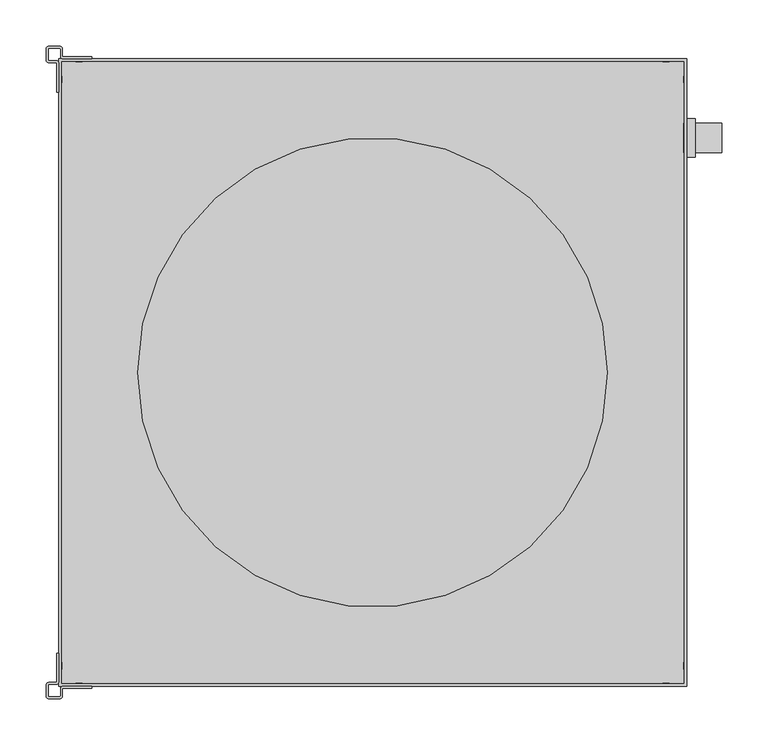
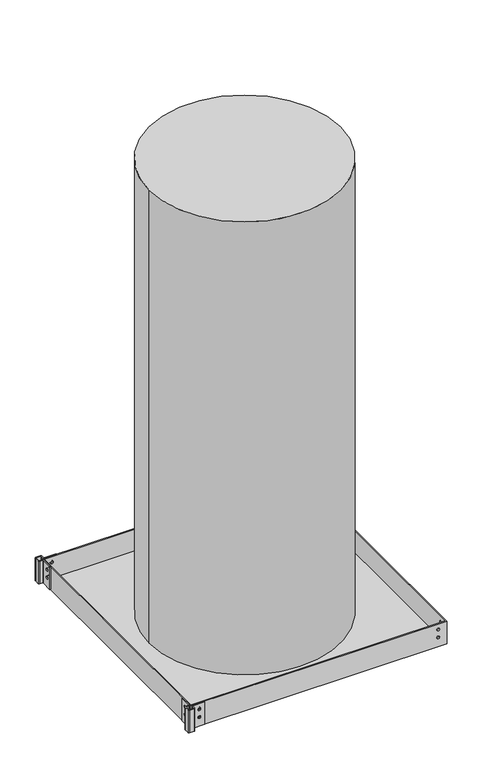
"""IFC4 building model written with IfcOpenShell, lengths in millimetres: proxy geometry."""

from ifc_helpers import new_model, si_unit, point, frame, frame_2d, origin, place, context, project, spatial, polyline, circle_curve, trimmed, segment, composite_curve, outline, extrude, source, transform, mapped, element, save
from ifc_brep_helpers import plane_surface, cylinder_surface, revolved_surface, advanced_brep


def generic_models_0aff265f(model_context):
    return source(origin(), model_context, "Body", "SolidModel", [
        advanced_brep(
        [(-341.7316, 1.6764, 63.5), (-342.4936, 0.9144, 63.5), (-350.393, 0.9144, 63.5), (-353.1616, -1.8542, 63.5), (-353.1616, -13.843, 63.5), (-350.393, -16.6116, 63.5), (-338.4042, -16.6116, 63.5), (-335.6356, -13.843, 63.5), (-335.6356, -5.9436, 63.5), (-334.8736, -5.1816, 63.5), (-303.7332, -5.1816, 63.5), (-303.7332, -3.175, 63.5), (-334.8736, -3.175, 63.5), (-337.6422, -5.9436, 63.5), (-337.6422, -13.843, 63.5), (-338.4042, -14.605, 63.5), (-350.393, -14.605, 63.5), (-351.155, -13.843, 63.5), (-351.155, -1.8542, 63.5), (-350.393, -1.0922, 63.5), (-342.4936, -1.0922, 63.5), (-339.725, 1.6764, 63.5), (-339.725, 32.8168, 63.5), (-341.7316, 32.8168, 63.5), (-341.7316, 1.6764, 0.0), (-341.7316, 32.8168, 0.0), (-339.725, 32.8168, 0.0), (-339.725, 1.6764, 0.0), (-342.4936, -1.0922, 0.0), (-350.393, -1.0922, 0.0), (-351.155, -1.8542, 0.0), (-351.155, -13.843, 0.0), (-350.393, -14.605, 0.0), (-338.4042, -14.605, 0.0), (-337.6422, -13.843, 0.0), (-337.6422, -5.9436, 0.0), (-334.8736, -3.175, 0.0), (-303.7332, -3.175, 0.0), (-303.7332, -5.1816, 0.0), (-334.8736, -5.1816, 0.0), (-335.6356, -5.9436, 0.0), (-335.6356, -13.843, 0.0), (-338.4042, -16.6116, 0.0), (-350.393, -16.6116, 0.0), (-353.1616, -13.843, 0.0), (-353.1616, -1.8542, 0.0), (-350.393, 0.9144, 0.0), (-342.4936, 0.9144, 0.0), (-313.9313, -5.1816, 47.625), (-321.0687, -5.1816, 47.625), (-313.9313, -5.1816, 25.4), (-321.0687, -5.1816, 25.4), (-321.0687, -3.175, 47.625), (-313.9313, -3.175, 47.625), (-321.0687, -3.175, 25.4), (-313.9313, -3.175, 25.4), (-339.725, 22.6187, 47.625), (-339.725, 15.4813, 47.625), (-339.725, 22.6187, 25.4), (-339.725, 15.4813, 25.4), (-341.7316, 15.4813, 47.625), (-341.7316, 22.6187, 47.625), (-341.7316, 15.4813, 25.4), (-341.7316, 22.6187, 25.4)],
        [
            (0, 1, circle_curve(frame((-342.4936, 1.6764, 63.5), z_axis=(0.0, 0.0, -1.0), x_axis=(1.0, 0.0, 0.0)), 0.762)),
            (1, 2),
            (2, 3, circle_curve(frame((-350.393, -1.8542, 63.5), z_axis=(0.0, 0.0, 1.0), x_axis=(1.0, 0.0, 0.0)), 2.7686)),
            (3, 4),
            (4, 5, circle_curve(frame((-350.393, -13.843, 63.5), z_axis=(0.0, 0.0, 1.0), x_axis=(1.0, 0.0, 0.0)), 2.7686)),
            (5, 6),
            (6, 7, circle_curve(frame((-338.4042, -13.843, 63.5), z_axis=(0.0, 0.0, 1.0), x_axis=(1.0, 0.0, 0.0)), 2.7686)),
            (7, 8),
            (8, 9, circle_curve(frame((-334.8736, -5.9436, 63.5), z_axis=(0.0, 0.0, -1.0), x_axis=(1.0, 0.0, 0.0)), 0.762)),
            (9, 10),
            (10, 11),
            (11, 12),
            (12, 13, circle_curve(frame((-334.8736, -5.9436, 63.5), z_axis=(0.0, 0.0, 1.0), x_axis=(1.0, 0.0, 0.0)), 2.7686)),
            (13, 14),
            (14, 15, circle_curve(frame((-338.4042, -13.843, 63.5), z_axis=(0.0, 0.0, -1.0), x_axis=(1.0, 0.0, 0.0)), 0.762)),
            (15, 16),
            (16, 17, circle_curve(frame((-350.393, -13.843, 63.5), z_axis=(0.0, 0.0, -1.0), x_axis=(1.0, 0.0, 0.0)), 0.762)),
            (17, 18),
            (18, 19, circle_curve(frame((-350.393, -1.8542, 63.5), z_axis=(0.0, 0.0, -1.0), x_axis=(1.0, 0.0, 0.0)), 0.762)),
            (19, 20),
            (20, 21, circle_curve(frame((-342.4936, 1.6764, 63.5), z_axis=(0.0, 0.0, 1.0), x_axis=(1.0, 0.0, 0.0)), 2.7686)),
            (21, 22),
            (22, 23),
            (23, 0),
            (24, 25),
            (25, 26),
            (26, 27),
            (27, 28, circle_curve(frame((-342.4936, 1.6764, 0.0), z_axis=(0.0, 0.0, -1.0), x_axis=(1.0, 0.0, 0.0)), 2.7686)),
            (28, 29),
            (29, 30, circle_curve(frame((-350.393, -1.8542, 0.0), z_axis=(0.0, 0.0, 1.0), x_axis=(1.0, 0.0, 0.0)), 0.762)),
            (30, 31),
            (31, 32, circle_curve(frame((-350.393, -13.843, 0.0), z_axis=(0.0, 0.0, 1.0), x_axis=(1.0, 0.0, 0.0)), 0.762)),
            (32, 33),
            (33, 34, circle_curve(frame((-338.4042, -13.843, 0.0), z_axis=(0.0, 0.0, 1.0), x_axis=(1.0, 0.0, 0.0)), 0.762)),
            (34, 35),
            (35, 36, circle_curve(frame((-334.8736, -5.9436, 0.0), z_axis=(0.0, 0.0, -1.0), x_axis=(1.0, 0.0, 0.0)), 2.7686)),
            (36, 37),
            (37, 38),
            (38, 39),
            (39, 40, circle_curve(frame((-334.8736, -5.9436, 0.0), z_axis=(0.0, 0.0, 1.0), x_axis=(1.0, 0.0, 0.0)), 0.762)),
            (40, 41),
            (41, 42, circle_curve(frame((-338.4042, -13.843, 0.0), z_axis=(0.0, 0.0, -1.0), x_axis=(1.0, 0.0, 0.0)), 2.7686)),
            (42, 43),
            (43, 44, circle_curve(frame((-350.393, -13.843, 0.0), z_axis=(0.0, 0.0, -1.0), x_axis=(1.0, 0.0, 0.0)), 2.7686)),
            (44, 45),
            (45, 46, circle_curve(frame((-350.393, -1.8542, 0.0), z_axis=(0.0, 0.0, -1.0), x_axis=(1.0, 0.0, 0.0)), 2.7686)),
            (46, 47),
            (47, 24, circle_curve(frame((-342.4936, 1.6764, 0.0), z_axis=(0.0, 0.0, 1.0), x_axis=(1.0, 0.0, 0.0)), 0.762)),
            (0, 24),
            (47, 1),
            (46, 2),
            (45, 3),
            (44, 4),
            (43, 5),
            (42, 6),
            (41, 7),
            (40, 8),
            (39, 9),
            (38, 10),
            (48, 49, circle_curve(frame((-317.5, -5.1816, 47.625), z_axis=(0.0, 1.0, 0.0), x_axis=(-1.0, 0.0, 0.0)), 3.5687)),
            (49, 48, circle_curve(frame((-317.5, -5.1816, 47.625), z_axis=(0.0, 1.0, 0.0), x_axis=(-1.0, 0.0, 0.0)), 3.5687)),
            (50, 51, circle_curve(frame((-317.5, -5.1816, 25.4), z_axis=(0.0, 1.0, 0.0), x_axis=(-1.0, 0.0, 0.0)), 3.5687)),
            (51, 50, circle_curve(frame((-317.5, -5.1816, 25.4), z_axis=(0.0, 1.0, 0.0), x_axis=(-1.0, 0.0, 0.0)), 3.5687)),
            (37, 11),
            (36, 12),
            (52, 53, circle_curve(frame((-317.5, -3.175, 47.625), z_axis=(0.0, -1.0, 0.0), x_axis=(-1.0, 0.0, 0.0)), 3.5687)),
            (53, 52, circle_curve(frame((-317.5, -3.175, 47.625), z_axis=(0.0, -1.0, 0.0), x_axis=(-1.0, 0.0, 0.0)), 3.5687)),
            (54, 55, circle_curve(frame((-317.5, -3.175, 25.4), z_axis=(0.0, -1.0, 0.0), x_axis=(-1.0, 0.0, 0.0)), 3.5687)),
            (55, 54, circle_curve(frame((-317.5, -3.175, 25.4), z_axis=(0.0, -1.0, 0.0), x_axis=(-1.0, 0.0, 0.0)), 3.5687)),
            (35, 13),
            (34, 14),
            (33, 15),
            (32, 16),
            (31, 17),
            (30, 18),
            (29, 19),
            (28, 20),
            (27, 21),
            (26, 22),
            (56, 57, circle_curve(frame((-339.725, 19.05, 47.625), z_axis=(-1.0, 0.0, 0.0), x_axis=(0.0, -1.0, 0.0)), 3.5687)),
            (57, 56, circle_curve(frame((-339.725, 19.05, 47.625), z_axis=(-1.0, 0.0, 0.0), x_axis=(0.0, -1.0, 0.0)), 3.5687)),
            (58, 59, circle_curve(frame((-339.725, 19.05, 25.4), z_axis=(-1.0, 0.0, 0.0), x_axis=(0.0, -1.0, 0.0)), 3.5687)),
            (59, 58, circle_curve(frame((-339.725, 19.05, 25.4), z_axis=(-1.0, 0.0, 0.0), x_axis=(0.0, -1.0, 0.0)), 3.5687)),
            (25, 23),
            (60, 61, circle_curve(frame((-341.7316, 19.05, 47.625), z_axis=(1.0, 0.0, 0.0), x_axis=(0.0, -1.0, 0.0)), 3.5687)),
            (61, 60, circle_curve(frame((-341.7316, 19.05, 47.625), z_axis=(1.0, 0.0, 0.0), x_axis=(0.0, -1.0, 0.0)), 3.5687)),
            (62, 63, circle_curve(frame((-341.7316, 19.05, 25.4), z_axis=(1.0, 0.0, 0.0), x_axis=(0.0, -1.0, 0.0)), 3.5687)),
            (63, 62, circle_curve(frame((-341.7316, 19.05, 25.4), z_axis=(1.0, 0.0, 0.0), x_axis=(0.0, -1.0, 0.0)), 3.5687)),
            (56, 61),
            (60, 57),
            (58, 63),
            (62, 59),
            (48, 53),
            (52, 49),
            (50, 55),
            (54, 51),
        ],
        [
            plane_surface(frame((-341.7316, 1.6764, 63.5), z_axis=(0.0, 0.0, 1.0), x_axis=(0.0, -1.0, 0.0))),
            plane_surface(frame((-341.7316, 1.6764, 0.0), z_axis=(0.0, 0.0, -1.0), x_axis=(0.0, 1.0, 0.0))),
            revolved_surface(polyline([(-341.7316, 1.6764, 0.0), (-341.7316, 1.6764, 63.5)]), (-342.4936, 1.6764, 0.0), (0.0, 0.0, -1.0)),
            plane_surface(frame((-342.4936, 0.9144, 63.5), z_axis=(0.0, 1.0, 0.0), x_axis=(0.0, 0.0, -1.0))),
            cylinder_surface(frame((-350.393, -1.8542, 0.0), z_axis=(0.0, 0.0, 1.0), x_axis=(1.0, 0.0, 0.0)), 2.7686),
            plane_surface(frame((-353.1616, -1.8542, 63.5), z_axis=(-1.0, 0.0, 0.0), x_axis=(0.0, 0.0, -1.0))),
            cylinder_surface(frame((-350.393, -13.843, 0.0), z_axis=(0.0, 0.0, 1.0), x_axis=(1.0, 0.0, 0.0)), 2.7686),
            plane_surface(frame((-350.393, -16.6116, 63.5), z_axis=(0.0, -1.0, 0.0), x_axis=(0.0, 0.0, -1.0))),
            cylinder_surface(frame((-338.4042, -13.843, 0.0), z_axis=(0.0, 0.0, 1.0), x_axis=(1.0, 0.0, 0.0)), 2.7686),
            plane_surface(frame((-335.6356, -13.843, 63.5), z_axis=(1.0, 0.0, 0.0), x_axis=(0.0, 0.0, -1.0))),
            revolved_surface(polyline([(-334.1116, -5.9436, 0.0), (-334.1116, -5.9436, 63.5)]), (-334.8736, -5.9436, 0.0), (0.0, 0.0, -1.0)),
            plane_surface(frame((-334.8736, -5.1816, 63.5), z_axis=(0.0, -1.0, 0.0), x_axis=(0.0, 0.0, -1.0))),
            plane_surface(frame((-303.7332, -5.1816, 63.5), z_axis=(1.0, 0.0, 0.0), x_axis=(0.0, 0.0, -1.0))),
            plane_surface(frame((-303.7332, -3.175, 63.5), z_axis=(0.0, 1.0, 0.0), x_axis=(0.0, 0.0, -1.0))),
            cylinder_surface(frame((-334.8736, -5.9436, 0.0), z_axis=(0.0, 0.0, 1.0), x_axis=(1.0, 0.0, 0.0)), 2.7686),
            plane_surface(frame((-337.6422, -5.9436, 63.5), z_axis=(-1.0, 0.0, 0.0), x_axis=(0.0, 0.0, -1.0))),
            revolved_surface(polyline([(-337.6422, -13.843, 0.0), (-337.6422, -13.843, 63.5)]), (-338.4042, -13.843, 0.0), (0.0, 0.0, -1.0)),
            plane_surface(frame((-338.4042, -14.605, 63.5), z_axis=(0.0, 1.0, 0.0), x_axis=(0.0, 0.0, -1.0))),
            revolved_surface(polyline([(-349.631, -13.843, 0.0), (-349.631, -13.843, 63.5)]), (-350.393, -13.843, 0.0), (0.0, 0.0, -1.0)),
            plane_surface(frame((-351.155, -13.843, 63.5), z_axis=(1.0, 0.0, 0.0), x_axis=(0.0, 0.0, -1.0))),
            revolved_surface(polyline([(-349.631, -1.8542, 0.0), (-349.631, -1.8542, 63.5)]), (-350.393, -1.8542, 0.0), (0.0, 0.0, -1.0)),
            plane_surface(frame((-350.393, -1.0922, 63.5), z_axis=(0.0, -1.0, 0.0), x_axis=(0.0, 0.0, -1.0))),
            cylinder_surface(frame((-342.4936, 1.6764, 0.0), z_axis=(0.0, 0.0, 1.0), x_axis=(1.0, 0.0, 0.0)), 2.7686),
            plane_surface(frame((-339.725, 1.6764, 63.5), z_axis=(1.0, 0.0, 0.0), x_axis=(0.0, 0.0, -1.0))),
            plane_surface(frame((-339.725, 32.8168, 63.5), z_axis=(0.0, 1.0, 0.0), x_axis=(0.0, 0.0, -1.0))),
            plane_surface(frame((-341.7316, 32.8168, 63.5), z_axis=(-1.0, 0.0, 0.0), x_axis=(0.0, 0.0, -1.0))),
            revolved_surface(polyline([(-341.7316, 15.481300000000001, 47.625), (-339.725, 15.481300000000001, 47.625)]), (-336.55, 19.05, 47.625), (-1.0, 0.0, 0.0)),
            revolved_surface(polyline([(-341.7316, 15.481300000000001, 25.4), (-339.725, 15.481300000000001, 25.4)]), (-344.3986, 19.05, 25.4), (-1.0, 0.0, 0.0)),
            revolved_surface(polyline([(-321.0687, -3.175, 47.625), (-321.0687, -5.1816, 47.625)]), (-317.5, -7.8486, 47.625), (0.0, 1.0, 0.0)),
            revolved_surface(polyline([(-321.0687, -3.175, 25.4), (-321.0687, -5.1816, 25.4)]), (-317.5, -7.8486, 25.4), (0.0, 1.0, 0.0)),
        ],
        [
            (0, [[1, 2, 3, 4, 5, 6, 7, 8, 9, 10, 11, 12, 13, 14, 15, 16, 17, 18, 19, 20, 21, 22, 23, 24]]),
            (1, [[25, 26, 27, 28, 29, 30, 31, 32, 33, 34, 35, 36, 37, 38, 39, 40, 41, 42, 43, 44, 45, 46, 47, 48]]),
            (2, [[-1, 49, -48, 50]]),
            (3, [[-2, -50, -47, 51]]),
            (4, [[-3, -51, -46, 52]]),
            (5, [[-4, -52, -45, 53]]),
            (6, [[-5, -53, -44, 54]]),
            (7, [[-6, -54, -43, 55]]),
            (8, [[-7, -55, -42, 56]]),
            (9, [[-8, -56, -41, 57]]),
            (10, [[-9, -57, -40, 58]]),
            (11, [[-10, -58, -39, 59], [60, 61], [62, 63]]),
            (12, [[-11, -59, -38, 64]]),
            (13, [[-12, -64, -37, 65], [66, 67], [68, 69]]),
            (14, [[-13, -65, -36, 70]]),
            (15, [[-14, -70, -35, 71]]),
            (16, [[-15, -71, -34, 72]]),
            (17, [[-16, -72, -33, 73]]),
            (18, [[-17, -73, -32, 74]]),
            (19, [[-18, -74, -31, 75]]),
            (20, [[-19, -75, -30, 76]]),
            (21, [[-20, -76, -29, 77]]),
            (22, [[-21, -77, -28, 78]]),
            (23, [[-22, -78, -27, 79], [80, 81], [82, 83]]),
            (24, [[-23, -79, -26, 84]]),
            (25, [[-24, -84, -25, -49], [85, 86], [87, 88]]),
            (26, [[89, -85, 90, -80]]),
            (26, [[-89, -81, -90, -86]]),
            (27, [[91, -87, 92, -82]]),
            (27, [[-91, -83, -92, -88]]),
            (28, [[93, -66, 94, -60]]),
            (28, [[-93, -61, -94, -67]]),
            (29, [[95, -68, 96, -62]]),
            (29, [[-95, -63, -96, -69]]),
        ],
    ),
        advanced_brep(
        [(-303.7332, 678.2816, 63.5), (-334.8736, 678.2816, 63.5), (-335.6356, 679.0436, 63.5), (-335.6356, 686.943, 63.5), (-338.4042, 689.7116, 63.5), (-350.393, 689.7116, 63.5), (-353.1616, 686.943, 63.5), (-353.1616, 674.9542, 63.5), (-350.393, 672.1856, 63.5), (-342.4936, 672.1856, 63.5), (-341.7316, 671.4236, 63.5), (-341.7316, 640.2832, 63.5), (-339.725, 640.2832, 63.5), (-339.725, 671.4236, 63.5), (-342.4936, 674.1922, 63.5), (-350.393, 674.1922, 63.5), (-351.155, 674.9542, 63.5), (-351.155, 686.943, 63.5), (-350.393, 687.705, 63.5), (-338.4042, 687.705, 63.5), (-337.6422, 686.943, 63.5), (-337.6422, 679.0436, 63.5), (-334.8736, 676.275, 63.5), (-303.7332, 676.275, 63.5), (-303.7332, 678.2816, 0.0), (-303.7332, 676.275, 0.0), (-334.8736, 676.275, 0.0), (-337.6422, 679.0436, 0.0), (-337.6422, 686.943, 0.0), (-338.4042, 687.705, 0.0), (-350.393, 687.705, 0.0), (-351.155, 686.943, 0.0), (-351.155, 674.9542, 0.0), (-350.393, 674.1922, 0.0), (-342.4936, 674.1922, 0.0), (-339.725, 671.4236, 0.0), (-339.725, 640.2832, 0.0), (-341.7316, 640.2832, 0.0), (-341.7316, 671.4236, 0.0), (-342.4936, 672.1856, 0.0), (-350.393, 672.1856, 0.0), (-353.1616, 674.9542, 0.0), (-353.1616, 686.943, 0.0), (-350.393, 689.7116, 0.0), (-338.4042, 689.7116, 0.0), (-335.6356, 686.943, 0.0), (-335.6356, 679.0436, 0.0), (-334.8736, 678.2816, 0.0), (-321.0687, 678.2816, 47.625), (-313.9313, 678.2816, 47.625), (-321.0687, 678.2816, 25.4), (-313.9313, 678.2816, 25.4), (-341.7316, 650.4813, 47.625), (-341.7316, 657.6187, 47.625), (-341.7316, 650.4813, 25.4), (-341.7316, 657.6187, 25.4), (-339.725, 657.6187, 47.625), (-339.725, 650.4813, 47.625), (-339.725, 657.6187, 25.4), (-339.725, 650.4813, 25.4), (-313.9313, 676.275, 47.625), (-321.0687, 676.275, 47.625), (-313.9313, 676.275, 25.4), (-321.0687, 676.275, 25.4)],
        [
            (0, 1),
            (1, 2, circle_curve(frame((-334.8736, 679.0436, 63.5), z_axis=(0.0, 0.0, -1.0), x_axis=(1.0, 0.0, 0.0)), 0.762)),
            (2, 3),
            (3, 4, circle_curve(frame((-338.4042, 686.943, 63.5), z_axis=(0.0, 0.0, 1.0), x_axis=(1.0, 0.0, 0.0)), 2.7686)),
            (4, 5),
            (5, 6, circle_curve(frame((-350.393, 686.943, 63.5), z_axis=(0.0, 0.0, 1.0), x_axis=(1.0, 0.0, 0.0)), 2.7686)),
            (6, 7),
            (7, 8, circle_curve(frame((-350.393, 674.9542, 63.5), z_axis=(0.0, 0.0, 1.0), x_axis=(1.0, 0.0, 0.0)), 2.7686)),
            (8, 9),
            (9, 10, circle_curve(frame((-342.4936, 671.4236, 63.5), z_axis=(0.0, 0.0, -1.0), x_axis=(1.0, 0.0, 0.0)), 0.762)),
            (10, 11),
            (11, 12),
            (12, 13),
            (13, 14, circle_curve(frame((-342.4936, 671.4236, 63.5), z_axis=(0.0, 0.0, 1.0), x_axis=(1.0, 0.0, 0.0)), 2.7686)),
            (14, 15),
            (15, 16, circle_curve(frame((-350.393, 674.9542, 63.5), z_axis=(0.0, 0.0, -1.0), x_axis=(1.0, 0.0, 0.0)), 0.762)),
            (16, 17),
            (17, 18, circle_curve(frame((-350.393, 686.943, 63.5), z_axis=(0.0, 0.0, -1.0), x_axis=(1.0, 0.0, 0.0)), 0.762)),
            (18, 19),
            (19, 20, circle_curve(frame((-338.4042, 686.943, 63.5), z_axis=(0.0, 0.0, -1.0), x_axis=(1.0, 0.0, 0.0)), 0.762)),
            (20, 21),
            (21, 22, circle_curve(frame((-334.8736, 679.0436, 63.5), z_axis=(0.0, 0.0, 1.0), x_axis=(1.0, 0.0, 0.0)), 2.7686)),
            (22, 23),
            (23, 0),
            (24, 25),
            (25, 26),
            (26, 27, circle_curve(frame((-334.8736, 679.0436, 0.0), z_axis=(0.0, 0.0, -1.0), x_axis=(1.0, 0.0, 0.0)), 2.7686)),
            (27, 28),
            (28, 29, circle_curve(frame((-338.4042, 686.943, 0.0), z_axis=(0.0, 0.0, 1.0), x_axis=(1.0, 0.0, 0.0)), 0.762)),
            (29, 30),
            (30, 31, circle_curve(frame((-350.393, 686.943, 0.0), z_axis=(0.0, 0.0, 1.0), x_axis=(1.0, 0.0, 0.0)), 0.762)),
            (31, 32),
            (32, 33, circle_curve(frame((-350.393, 674.9542, 0.0), z_axis=(0.0, 0.0, 1.0), x_axis=(1.0, 0.0, 0.0)), 0.762)),
            (33, 34),
            (34, 35, circle_curve(frame((-342.4936, 671.4236, 0.0), z_axis=(0.0, 0.0, -1.0), x_axis=(1.0, 0.0, 0.0)), 2.7686)),
            (35, 36),
            (36, 37),
            (37, 38),
            (38, 39, circle_curve(frame((-342.4936, 671.4236, 0.0), z_axis=(0.0, 0.0, 1.0), x_axis=(1.0, 0.0, 0.0)), 0.762)),
            (39, 40),
            (40, 41, circle_curve(frame((-350.393, 674.9542, 0.0), z_axis=(0.0, 0.0, -1.0), x_axis=(1.0, 0.0, 0.0)), 2.7686)),
            (41, 42),
            (42, 43, circle_curve(frame((-350.393, 686.943, 0.0), z_axis=(0.0, 0.0, -1.0), x_axis=(1.0, 0.0, 0.0)), 2.7686)),
            (43, 44),
            (44, 45, circle_curve(frame((-338.4042, 686.943, 0.0), z_axis=(0.0, 0.0, -1.0), x_axis=(1.0, 0.0, 0.0)), 2.7686)),
            (45, 46),
            (46, 47, circle_curve(frame((-334.8736, 679.0436, 0.0), z_axis=(0.0, 0.0, 1.0), x_axis=(1.0, 0.0, 0.0)), 0.762)),
            (47, 24),
            (0, 24),
            (47, 1),
            (48, 49, circle_curve(frame((-317.5, 678.2816, 47.625), z_axis=(0.0, -1.0, 0.0), x_axis=(-1.0, 0.0, 0.0)), 3.5687)),
            (49, 48, circle_curve(frame((-317.5, 678.2816, 47.625), z_axis=(0.0, -1.0, 0.0), x_axis=(-1.0, 0.0, 0.0)), 3.5687)),
            (50, 51, circle_curve(frame((-317.5, 678.2816, 25.4), z_axis=(0.0, -1.0, 0.0), x_axis=(-1.0, 0.0, 0.0)), 3.5687)),
            (51, 50, circle_curve(frame((-317.5, 678.2816, 25.4), z_axis=(0.0, -1.0, 0.0), x_axis=(-1.0, 0.0, 0.0)), 3.5687)),
            (46, 2),
            (45, 3),
            (44, 4),
            (43, 5),
            (42, 6),
            (41, 7),
            (40, 8),
            (39, 9),
            (38, 10),
            (37, 11),
            (52, 53, circle_curve(frame((-341.7316, 654.05, 47.625), z_axis=(1.0, 0.0, 0.0), x_axis=(0.0, -1.0, 0.0)), 3.5687)),
            (53, 52, circle_curve(frame((-341.7316, 654.05, 47.625), z_axis=(1.0, 0.0, 0.0), x_axis=(0.0, -1.0, 0.0)), 3.5687)),
            (54, 55, circle_curve(frame((-341.7316, 654.05, 25.4), z_axis=(1.0, 0.0, 0.0), x_axis=(0.0, -1.0, 0.0)), 3.5687)),
            (55, 54, circle_curve(frame((-341.7316, 654.05, 25.4), z_axis=(1.0, 0.0, 0.0), x_axis=(0.0, -1.0, 0.0)), 3.5687)),
            (36, 12),
            (35, 13),
            (56, 57, circle_curve(frame((-339.725, 654.05, 47.625), z_axis=(-1.0, 0.0, 0.0), x_axis=(0.0, -1.0, 0.0)), 3.5687)),
            (57, 56, circle_curve(frame((-339.725, 654.05, 47.625), z_axis=(-1.0, 0.0, 0.0), x_axis=(0.0, -1.0, 0.0)), 3.5687)),
            (58, 59, circle_curve(frame((-339.725, 654.05, 25.4), z_axis=(-1.0, 0.0, 0.0), x_axis=(0.0, -1.0, 0.0)), 3.5687)),
            (59, 58, circle_curve(frame((-339.725, 654.05, 25.4), z_axis=(-1.0, 0.0, 0.0), x_axis=(0.0, -1.0, 0.0)), 3.5687)),
            (34, 14),
            (33, 15),
            (32, 16),
            (31, 17),
            (30, 18),
            (29, 19),
            (28, 20),
            (27, 21),
            (26, 22),
            (25, 23),
            (60, 61, circle_curve(frame((-317.5, 676.275, 47.625), z_axis=(0.0, 1.0, 0.0), x_axis=(-1.0, 0.0, 0.0)), 3.5687)),
            (61, 60, circle_curve(frame((-317.5, 676.275, 47.625), z_axis=(0.0, 1.0, 0.0), x_axis=(-1.0, 0.0, 0.0)), 3.5687)),
            (62, 63, circle_curve(frame((-317.5, 676.275, 25.4), z_axis=(0.0, 1.0, 0.0), x_axis=(-1.0, 0.0, 0.0)), 3.5687)),
            (63, 62, circle_curve(frame((-317.5, 676.275, 25.4), z_axis=(0.0, 1.0, 0.0), x_axis=(-1.0, 0.0, 0.0)), 3.5687)),
            (56, 53),
            (52, 57),
            (58, 55),
            (54, 59),
            (60, 49),
            (48, 61),
            (62, 51),
            (50, 63),
        ],
        [
            plane_surface(frame((-334.8736, 678.2816, 63.5), z_axis=(0.0, 0.0, 1.0), x_axis=(-1.0, 0.0, 0.0))),
            plane_surface(frame((-334.8736, 678.2816, 0.0), z_axis=(0.0, 0.0, -1.0), x_axis=(1.0, 0.0, 0.0))),
            plane_surface(frame((-303.7332, 678.2816, 63.5), z_axis=(0.0, 1.0, 0.0), x_axis=(0.0, 0.0, -1.0))),
            revolved_surface(polyline([(-334.1116, 679.0436, 0.0), (-334.1116, 679.0436, 63.5)]), (-334.8736, 679.0436, 0.0), (0.0, 0.0, -1.0)),
            plane_surface(frame((-335.6356, 679.0436, 63.5), z_axis=(1.0, 0.0, 0.0), x_axis=(0.0, 0.0, -1.0))),
            cylinder_surface(frame((-338.4042, 686.943, 0.0), z_axis=(0.0, 0.0, 1.0), x_axis=(1.0, 0.0, 0.0)), 2.7686),
            plane_surface(frame((-338.4042, 689.7116, 63.5), z_axis=(0.0, 1.0, 0.0), x_axis=(0.0, 0.0, -1.0))),
            cylinder_surface(frame((-350.393, 686.943, 0.0), z_axis=(0.0, 0.0, 1.0), x_axis=(1.0, 0.0, 0.0)), 2.7686),
            plane_surface(frame((-353.1616, 686.943, 63.5), z_axis=(-1.0, 0.0, 0.0), x_axis=(0.0, 0.0, -1.0))),
            cylinder_surface(frame((-350.393, 674.9542, 0.0), z_axis=(0.0, 0.0, 1.0), x_axis=(1.0, 0.0, 0.0)), 2.7686),
            plane_surface(frame((-350.393, 672.1856, 63.5), z_axis=(0.0, -1.0, 0.0), x_axis=(0.0, 0.0, -1.0))),
            revolved_surface(polyline([(-341.7316, 671.4236, 0.0), (-341.7316, 671.4236, 63.5)]), (-342.4936, 671.4236, 0.0), (0.0, 0.0, -1.0)),
            plane_surface(frame((-341.7316, 671.4236, 63.5), z_axis=(-1.0, 0.0, 0.0), x_axis=(0.0, 0.0, -1.0))),
            plane_surface(frame((-341.7316, 640.2832, 63.5), z_axis=(0.0, -1.0, 0.0), x_axis=(0.0, 0.0, -1.0))),
            plane_surface(frame((-339.725, 640.2832, 63.5), z_axis=(1.0, 0.0, 0.0), x_axis=(0.0, 0.0, -1.0))),
            cylinder_surface(frame((-342.4936, 671.4236, 0.0), z_axis=(0.0, 0.0, 1.0), x_axis=(1.0, 0.0, 0.0)), 2.7686),
            plane_surface(frame((-342.4936, 674.1922, 63.5), z_axis=(0.0, 1.0, 0.0), x_axis=(0.0, 0.0, -1.0))),
            revolved_surface(polyline([(-349.631, 674.9542, 0.0), (-349.631, 674.9542, 63.5)]), (-350.393, 674.9542, 0.0), (0.0, 0.0, -1.0)),
            plane_surface(frame((-351.155, 674.9542, 63.5), z_axis=(1.0, 0.0, 0.0), x_axis=(0.0, 0.0, -1.0))),
            revolved_surface(polyline([(-349.631, 686.943, 0.0), (-349.631, 686.943, 63.5)]), (-350.393, 686.943, 0.0), (0.0, 0.0, -1.0)),
            plane_surface(frame((-350.393, 687.705, 63.5), z_axis=(0.0, -1.0, 0.0), x_axis=(0.0, 0.0, -1.0))),
            revolved_surface(polyline([(-337.6422, 686.943, 0.0), (-337.6422, 686.943, 63.5)]), (-338.4042, 686.943, 0.0), (0.0, 0.0, -1.0)),
            plane_surface(frame((-337.6422, 686.943, 63.5), z_axis=(-1.0, 0.0, 0.0), x_axis=(0.0, 0.0, -1.0))),
            cylinder_surface(frame((-334.8736, 679.0436, 0.0), z_axis=(0.0, 0.0, 1.0), x_axis=(1.0, 0.0, 0.0)), 2.7686),
            plane_surface(frame((-334.8736, 676.275, 63.5), z_axis=(0.0, -1.0, 0.0), x_axis=(0.0, 0.0, -1.0))),
            plane_surface(frame((-303.7332, 676.275, 63.5), z_axis=(1.0, 0.0, 0.0), x_axis=(0.0, 0.0, -1.0))),
            revolved_surface(polyline([(-341.7316, 650.4812999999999, 47.625), (-339.725, 650.4812999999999, 47.625)]), (-336.55, 654.05, 47.625), (-1.0, 0.0, 0.0)),
            revolved_surface(polyline([(-341.7316, 650.4812999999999, 25.4), (-339.725, 650.4812999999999, 25.4)]), (-344.3986, 654.05, 25.4), (-1.0, 0.0, 0.0)),
            revolved_surface(polyline([(-321.0687, 678.2816, 47.625), (-321.0687, 676.275, 47.625)]), (-317.5, 673.1, 47.625), (0.0, 1.0, 0.0)),
            revolved_surface(polyline([(-321.0687, 678.2816, 25.4), (-321.0687, 676.275, 25.4)]), (-317.5, 680.9486, 25.4), (0.0, 1.0, 0.0)),
        ],
        [
            (0, [[1, 2, 3, 4, 5, 6, 7, 8, 9, 10, 11, 12, 13, 14, 15, 16, 17, 18, 19, 20, 21, 22, 23, 24]]),
            (1, [[25, 26, 27, 28, 29, 30, 31, 32, 33, 34, 35, 36, 37, 38, 39, 40, 41, 42, 43, 44, 45, 46, 47, 48]]),
            (2, [[-1, 49, -48, 50], [51, 52], [53, 54]]),
            (3, [[-2, -50, -47, 55]]),
            (4, [[-3, -55, -46, 56]]),
            (5, [[-4, -56, -45, 57]]),
            (6, [[-5, -57, -44, 58]]),
            (7, [[-6, -58, -43, 59]]),
            (8, [[-7, -59, -42, 60]]),
            (9, [[-8, -60, -41, 61]]),
            (10, [[-9, -61, -40, 62]]),
            (11, [[-10, -62, -39, 63]]),
            (12, [[-11, -63, -38, 64], [65, 66], [67, 68]]),
            (13, [[-12, -64, -37, 69]]),
            (14, [[-13, -69, -36, 70], [71, 72], [73, 74]]),
            (15, [[-14, -70, -35, 75]]),
            (16, [[-15, -75, -34, 76]]),
            (17, [[-16, -76, -33, 77]]),
            (18, [[-17, -77, -32, 78]]),
            (19, [[-18, -78, -31, 79]]),
            (20, [[-19, -79, -30, 80]]),
            (21, [[-20, -80, -29, 81]]),
            (22, [[-21, -81, -28, 82]]),
            (23, [[-22, -82, -27, 83]]),
            (24, [[-23, -83, -26, 84], [85, 86], [87, 88]]),
            (25, [[-24, -84, -25, -49]]),
            (26, [[89, -65, 90, -71]]),
            (26, [[-89, -72, -90, -66]]),
            (27, [[91, -67, 92, -73]]),
            (27, [[-91, -74, -92, -68]]),
            (28, [[93, -51, 94, -85]]),
            (28, [[-93, -86, -94, -52]]),
            (29, [[95, -53, 96, -87]]),
            (29, [[-95, -88, -96, -54]]),
        ],
    ),
        extrude(outline(composite_curve([segment(trimmed(circle_curve(frame_2d((0.0, 336.55)), 254.0), [point((-254.0, 336.55))], [point((254.0, 336.55))], False, "CARTESIAN"), True, "CONTINUOUS"), segment(trimmed(circle_curve(frame_2d((0.0, 336.55)), 254.0), [point((254.0, 336.55))], [point((-254.0, 336.55))], False, "CARTESIAN"), True, "CONTINUOUS")], self_intersect=False)), frame((0.0, 0.0, 3.175), z_axis=(0.0, 0.0, 1.0), x_axis=(1.0, 0.0, 0.0)), (0.0, 0.0, 1.0), 1270.0),
        extrude(outline(composite_curve([segment(trimmed(circle_curve(frame_2d((590.55, 25.9953125)), 20.6375), [point((569.9125, 25.9953125))], [point((611.1875, 25.9953125))], False, "CARTESIAN"), True, "CONTINUOUS"), segment(trimmed(circle_curve(frame_2d((590.55, 25.9953125)), 20.6375), [point((611.1875, 25.9953125))], [point((569.9125, 25.9953125))], False, "CARTESIAN"), True, "CONTINUOUS")], self_intersect=False), holes=[composite_curve([segment(trimmed(circle_curve(frame_2d((590.55, 25.9953125)), 15.875), [point((574.675, 25.9953125))], [point((606.425, 25.9953125))], True, "CARTESIAN"), True, "CONTINUOUS"), segment(trimmed(circle_curve(frame_2d((590.55, 25.9953125)), 15.875), [point((606.425, 25.9953125))], [point((574.675, 25.9953125))], True, "CARTESIAN"), True, "CONTINUOUS")], self_intersect=False)]), frame((339.725, 0.0, 0.0), z_axis=(1.0, 0.0, 0.0), x_axis=(0.0, 1.0, 0.0)), (0.0, 0.0, 1.0), 9.525),
        extrude(outline(composite_curve([segment(trimmed(circle_curve(frame_2d((590.55, 25.9953125)), 15.875), [point((574.675, 25.9953125))], [point((606.425, 25.9953125))], False, "CARTESIAN"), True, "CONTINUOUS"), segment(trimmed(circle_curve(frame_2d((590.55, 25.9953125)), 15.875), [point((606.425, 25.9953125))], [point((574.675, 25.9953125))], False, "CARTESIAN"), True, "CONTINUOUS")], self_intersect=False), holes=[composite_curve([segment(trimmed(circle_curve(frame_2d((590.55, 25.9953125)), 12.7), [point((577.85, 25.9953125))], [point((603.25, 25.9953125))], True, "CARTESIAN"), True, "CONTINUOUS"), segment(trimmed(circle_curve(frame_2d((590.55, 25.9953125)), 12.7), [point((603.25, 25.9953125))], [point((577.85, 25.9953125))], True, "CARTESIAN"), True, "CONTINUOUS")], self_intersect=False)]), frame((336.55, 0.0, 0.0), z_axis=(1.0, 0.0, 0.0), x_axis=(0.0, 1.0, 0.0)), (0.0, 0.0, 1.0), 41.275),
        advanced_brep(
        [(336.55, 0.0, 3.175), (336.55, 673.1, 3.175), (-336.55, 673.1, 3.175), (-336.55, 0.0, 3.175), (339.725, -3.175, 63.5), (339.725, 676.275, 63.5), (-339.725, 676.275, 63.5), (-339.725, -3.175, 63.5), (336.55, 673.1, 63.5), (336.55, 0.0, 63.5), (-336.55, 0.0, 63.5), (-336.55, 673.1, 63.5), (339.725, -3.175, 0.0), (-339.725, -3.175, 0.0), (-339.725, 676.275, 0.0), (339.725, 676.275, 0.0), (336.55, 574.675, 25.9953125), (336.55, 606.425, 25.9953125), (336.55, 15.4813, 47.625), (336.55, 22.6187, 47.625), (336.55, 15.4813, 25.4), (336.55, 22.6187, 25.4), (336.55, 650.4813, 47.625), (336.55, 657.6187, 47.625), (336.55, 650.4813, 25.4), (336.55, 657.6187, 25.4), (-321.0687, 0.0, 47.625), (-313.9313, 0.0, 47.625), (-321.0687, 0.0, 25.4), (-313.9313, 0.0, 25.4), (313.9313, 0.0, 47.625), (321.0687, 0.0, 47.625), (313.9313, 0.0, 25.4), (321.0687, 0.0, 25.4), (-336.55, 657.6187, 47.625), (-336.55, 650.4813, 47.625), (-336.55, 657.6187, 25.4), (-336.55, 650.4813, 25.4), (-336.55, 22.6187, 47.625), (-336.55, 15.4813, 47.625), (-336.55, 22.6187, 25.4), (-336.55, 15.4813, 25.4), (-313.9313, 673.1, 47.625), (-321.0687, 673.1, 47.625), (-313.9313, 673.1, 25.4), (-321.0687, 673.1, 25.4), (321.0687, 673.1, 25.4), (313.9313, 673.1, 25.4), (321.0687, 673.1, 47.625), (313.9313, 673.1, 47.625), (339.725, 606.425, 25.9953125), (339.725, 574.675, 25.9953125), (339.725, 22.6187, 47.625), (339.725, 15.4813, 47.625), (339.725, 22.6187, 25.4), (339.725, 15.4813, 25.4), (339.725, 657.6187, 47.625), (339.725, 650.4813, 47.625), (339.725, 657.6187, 25.4), (339.725, 650.4813, 25.4), (-321.0687, 676.275, 47.625), (-313.9313, 676.275, 47.625), (-321.0687, 676.275, 25.4), (-313.9313, 676.275, 25.4), (313.9313, 676.275, 25.4), (321.0687, 676.275, 25.4), (313.9313, 676.275, 47.625), (321.0687, 676.275, 47.625), (-339.725, 650.4813, 47.625), (-339.725, 657.6187, 47.625), (-339.725, 650.4813, 25.4), (-339.725, 657.6187, 25.4), (-339.725, 15.4813, 47.625), (-339.725, 22.6187, 47.625), (-339.725, 15.4813, 25.4), (-339.725, 22.6187, 25.4), (-313.9313, -3.175, 47.625), (-321.0687, -3.175, 47.625), (-313.9313, -3.175, 25.4), (-321.0687, -3.175, 25.4), (321.0687, -3.175, 47.625), (313.9313, -3.175, 47.625), (321.0687, -3.175, 25.4), (313.9313, -3.175, 25.4)],
        [
            (0, 1),
            (1, 2),
            (2, 3),
            (3, 0),
            (4, 5),
            (5, 6),
            (6, 7),
            (7, 4),
            (8, 9),
            (9, 10),
            (10, 11),
            (11, 8),
            (12, 13),
            (13, 14),
            (14, 15),
            (15, 12),
            (8, 1),
            (0, 9),
            (16, 17, circle_curve(frame((336.55, 590.55, 25.9953125), z_axis=(1.0, 0.0, 0.0), x_axis=(0.0, 1.0, 0.0)), 15.875)),
            (17, 16, circle_curve(frame((336.55, 590.55, 25.9953125), z_axis=(1.0, 0.0, 0.0), x_axis=(0.0, 1.0, 0.0)), 15.875)),
            (18, 19, circle_curve(frame((336.55, 19.05, 47.625), z_axis=(1.0, 0.0, 0.0), x_axis=(0.0, -1.0, 0.0)), 3.5687)),
            (19, 18, circle_curve(frame((336.55, 19.05, 47.625), z_axis=(1.0, 0.0, 0.0), x_axis=(0.0, -1.0, 0.0)), 3.5687)),
            (20, 21, circle_curve(frame((336.55, 19.05, 25.4), z_axis=(1.0, 0.0, 0.0), x_axis=(0.0, -1.0, 0.0)), 3.5687)),
            (21, 20, circle_curve(frame((336.55, 19.05, 25.4), z_axis=(1.0, 0.0, 0.0), x_axis=(0.0, -1.0, 0.0)), 3.5687)),
            (22, 23, circle_curve(frame((336.55, 654.05, 47.625), z_axis=(1.0, 0.0, 0.0), x_axis=(0.0, -1.0, 0.0)), 3.5687)),
            (23, 22, circle_curve(frame((336.55, 654.05, 47.625), z_axis=(1.0, 0.0, 0.0), x_axis=(0.0, -1.0, 0.0)), 3.5687)),
            (24, 25, circle_curve(frame((336.55, 654.05, 25.4), z_axis=(1.0, 0.0, 0.0), x_axis=(0.0, -1.0, 0.0)), 3.5687)),
            (25, 24, circle_curve(frame((336.55, 654.05, 25.4), z_axis=(1.0, 0.0, 0.0), x_axis=(0.0, -1.0, 0.0)), 3.5687)),
            (3, 10),
            (26, 27, circle_curve(frame((-317.5, 0.0, 47.625), z_axis=(0.0, -1.0, 0.0), x_axis=(-1.0, 0.0, 0.0)), 3.5687)),
            (27, 26, circle_curve(frame((-317.5, 0.0, 47.625), z_axis=(0.0, -1.0, 0.0), x_axis=(-1.0, 0.0, 0.0)), 3.5687)),
            (28, 29, circle_curve(frame((-317.5, 0.0, 25.4), z_axis=(0.0, -1.0, 0.0), x_axis=(-1.0, 0.0, 0.0)), 3.5687)),
            (29, 28, circle_curve(frame((-317.5, 0.0, 25.4), z_axis=(0.0, -1.0, 0.0), x_axis=(-1.0, 0.0, 0.0)), 3.5687)),
            (30, 31, circle_curve(frame((317.5, 0.0, 47.625), z_axis=(0.0, -1.0, 0.0), x_axis=(-1.0, 0.0, 0.0)), 3.5687)),
            (31, 30, circle_curve(frame((317.5, 0.0, 47.625), z_axis=(0.0, -1.0, 0.0), x_axis=(-1.0, 0.0, 0.0)), 3.5687)),
            (32, 33, circle_curve(frame((317.5, 0.0, 25.4), z_axis=(0.0, -1.0, 0.0), x_axis=(-1.0, 0.0, 0.0)), 3.5687)),
            (33, 32, circle_curve(frame((317.5, 0.0, 25.4), z_axis=(0.0, -1.0, 0.0), x_axis=(-1.0, 0.0, 0.0)), 3.5687)),
            (2, 11),
            (34, 35, circle_curve(frame((-336.55, 654.05, 47.625), z_axis=(-1.0, 0.0, 0.0), x_axis=(0.0, -1.0, 0.0)), 3.5687)),
            (35, 34, circle_curve(frame((-336.55, 654.05, 47.625), z_axis=(-1.0, 0.0, 0.0), x_axis=(0.0, -1.0, 0.0)), 3.5687)),
            (36, 37, circle_curve(frame((-336.55, 654.05, 25.4), z_axis=(-1.0, 0.0, 0.0), x_axis=(0.0, -1.0, 0.0)), 3.5687)),
            (37, 36, circle_curve(frame((-336.55, 654.05, 25.4), z_axis=(-1.0, 0.0, 0.0), x_axis=(0.0, -1.0, 0.0)), 3.5687)),
            (38, 39, circle_curve(frame((-336.55, 19.05, 47.625), z_axis=(-1.0, 0.0, 0.0), x_axis=(0.0, -1.0, 0.0)), 3.5687)),
            (39, 38, circle_curve(frame((-336.55, 19.05, 47.625), z_axis=(-1.0, 0.0, 0.0), x_axis=(0.0, -1.0, 0.0)), 3.5687)),
            (40, 41, circle_curve(frame((-336.55, 19.05, 25.4), z_axis=(-1.0, 0.0, 0.0), x_axis=(0.0, -1.0, 0.0)), 3.5687)),
            (41, 40, circle_curve(frame((-336.55, 19.05, 25.4), z_axis=(-1.0, 0.0, 0.0), x_axis=(0.0, -1.0, 0.0)), 3.5687)),
            (42, 43, circle_curve(frame((-317.5, 673.1, 47.625), z_axis=(0.0, 1.0, 0.0), x_axis=(-1.0, 0.0, 0.0)), 3.5687)),
            (43, 42, circle_curve(frame((-317.5, 673.1, 47.625), z_axis=(0.0, 1.0, 0.0), x_axis=(-1.0, 0.0, 0.0)), 3.5687)),
            (44, 45, circle_curve(frame((-317.5, 673.1, 25.4), z_axis=(0.0, 1.0, 0.0), x_axis=(-1.0, 0.0, 0.0)), 3.5687)),
            (45, 44, circle_curve(frame((-317.5, 673.1, 25.4), z_axis=(0.0, 1.0, 0.0), x_axis=(-1.0, 0.0, 0.0)), 3.5687)),
            (46, 47, circle_curve(frame((317.5, 673.1, 25.4), z_axis=(0.0, 1.0, 0.0), x_axis=(-1.0, 0.0, 0.0)), 3.5687)),
            (47, 46, circle_curve(frame((317.5, 673.1, 25.4), z_axis=(0.0, 1.0, 0.0), x_axis=(-1.0, 0.0, 0.0)), 3.5687)),
            (48, 49, circle_curve(frame((317.5, 673.1, 47.625), z_axis=(0.0, 1.0, 0.0), x_axis=(-1.0, 0.0, 0.0)), 3.5687)),
            (49, 48, circle_curve(frame((317.5, 673.1, 47.625), z_axis=(0.0, 1.0, 0.0), x_axis=(-1.0, 0.0, 0.0)), 3.5687)),
            (4, 12),
            (15, 5),
            (50, 51, circle_curve(frame((339.725, 590.55, 25.9953125), z_axis=(-1.0, 0.0, 0.0), x_axis=(0.0, 1.0, 0.0)), 15.875)),
            (51, 50, circle_curve(frame((339.725, 590.55, 25.9953125), z_axis=(-1.0, 0.0, 0.0), x_axis=(0.0, 1.0, 0.0)), 15.875)),
            (52, 53, circle_curve(frame((339.725, 19.05, 47.625), z_axis=(-1.0, 0.0, 0.0), x_axis=(0.0, -1.0, 0.0)), 3.5687)),
            (53, 52, circle_curve(frame((339.725, 19.05, 47.625), z_axis=(-1.0, 0.0, 0.0), x_axis=(0.0, -1.0, 0.0)), 3.5687)),
            (54, 55, circle_curve(frame((339.725, 19.05, 25.4), z_axis=(-1.0, 0.0, 0.0), x_axis=(0.0, -1.0, 0.0)), 3.5687)),
            (55, 54, circle_curve(frame((339.725, 19.05, 25.4), z_axis=(-1.0, 0.0, 0.0), x_axis=(0.0, -1.0, 0.0)), 3.5687)),
            (56, 57, circle_curve(frame((339.725, 654.05, 47.625), z_axis=(-1.0, 0.0, 0.0), x_axis=(0.0, -1.0, 0.0)), 3.5687)),
            (57, 56, circle_curve(frame((339.725, 654.05, 47.625), z_axis=(-1.0, 0.0, 0.0), x_axis=(0.0, -1.0, 0.0)), 3.5687)),
            (58, 59, circle_curve(frame((339.725, 654.05, 25.4), z_axis=(-1.0, 0.0, 0.0), x_axis=(0.0, -1.0, 0.0)), 3.5687)),
            (59, 58, circle_curve(frame((339.725, 654.05, 25.4), z_axis=(-1.0, 0.0, 0.0), x_axis=(0.0, -1.0, 0.0)), 3.5687)),
            (14, 6),
            (60, 61, circle_curve(frame((-317.5, 676.275, 47.625), z_axis=(0.0, -1.0, 0.0), x_axis=(-1.0, 0.0, 0.0)), 3.5687)),
            (61, 60, circle_curve(frame((-317.5, 676.275, 47.625), z_axis=(0.0, -1.0, 0.0), x_axis=(-1.0, 0.0, 0.0)), 3.5687)),
            (62, 63, circle_curve(frame((-317.5, 676.275, 25.4), z_axis=(0.0, -1.0, 0.0), x_axis=(-1.0, 0.0, 0.0)), 3.5687)),
            (63, 62, circle_curve(frame((-317.5, 676.275, 25.4), z_axis=(0.0, -1.0, 0.0), x_axis=(-1.0, 0.0, 0.0)), 3.5687)),
            (64, 65, circle_curve(frame((317.5, 676.275, 25.4), z_axis=(0.0, -1.0, 0.0), x_axis=(-1.0, 0.0, 0.0)), 3.5687)),
            (65, 64, circle_curve(frame((317.5, 676.275, 25.4), z_axis=(0.0, -1.0, 0.0), x_axis=(-1.0, 0.0, 0.0)), 3.5687)),
            (66, 67, circle_curve(frame((317.5, 676.275, 47.625), z_axis=(0.0, -1.0, 0.0), x_axis=(-1.0, 0.0, 0.0)), 3.5687)),
            (67, 66, circle_curve(frame((317.5, 676.275, 47.625), z_axis=(0.0, -1.0, 0.0), x_axis=(-1.0, 0.0, 0.0)), 3.5687)),
            (13, 7),
            (68, 69, circle_curve(frame((-339.725, 654.05, 47.625), z_axis=(1.0, 0.0, 0.0), x_axis=(0.0, -1.0, 0.0)), 3.5687)),
            (69, 68, circle_curve(frame((-339.725, 654.05, 47.625), z_axis=(1.0, 0.0, 0.0), x_axis=(0.0, -1.0, 0.0)), 3.5687)),
            (70, 71, circle_curve(frame((-339.725, 654.05, 25.4), z_axis=(1.0, 0.0, 0.0), x_axis=(0.0, -1.0, 0.0)), 3.5687)),
            (71, 70, circle_curve(frame((-339.725, 654.05, 25.4), z_axis=(1.0, 0.0, 0.0), x_axis=(0.0, -1.0, 0.0)), 3.5687)),
            (72, 73, circle_curve(frame((-339.725, 19.05, 47.625), z_axis=(1.0, 0.0, 0.0), x_axis=(0.0, -1.0, 0.0)), 3.5687)),
            (73, 72, circle_curve(frame((-339.725, 19.05, 47.625), z_axis=(1.0, 0.0, 0.0), x_axis=(0.0, -1.0, 0.0)), 3.5687)),
            (74, 75, circle_curve(frame((-339.725, 19.05, 25.4), z_axis=(1.0, 0.0, 0.0), x_axis=(0.0, -1.0, 0.0)), 3.5687)),
            (75, 74, circle_curve(frame((-339.725, 19.05, 25.4), z_axis=(1.0, 0.0, 0.0), x_axis=(0.0, -1.0, 0.0)), 3.5687)),
            (76, 77, circle_curve(frame((-317.5, -3.175, 47.625), z_axis=(0.0, 1.0, 0.0), x_axis=(-1.0, 0.0, 0.0)), 3.5687)),
            (77, 76, circle_curve(frame((-317.5, -3.175, 47.625), z_axis=(0.0, 1.0, 0.0), x_axis=(-1.0, 0.0, 0.0)), 3.5687)),
            (78, 79, circle_curve(frame((-317.5, -3.175, 25.4), z_axis=(0.0, 1.0, 0.0), x_axis=(-1.0, 0.0, 0.0)), 3.5687)),
            (79, 78, circle_curve(frame((-317.5, -3.175, 25.4), z_axis=(0.0, 1.0, 0.0), x_axis=(-1.0, 0.0, 0.0)), 3.5687)),
            (80, 81, circle_curve(frame((317.5, -3.175, 47.625), z_axis=(0.0, 1.0, 0.0), x_axis=(-1.0, 0.0, 0.0)), 3.5687)),
            (81, 80, circle_curve(frame((317.5, -3.175, 47.625), z_axis=(0.0, 1.0, 0.0), x_axis=(-1.0, 0.0, 0.0)), 3.5687)),
            (82, 83, circle_curve(frame((317.5, -3.175, 25.4), z_axis=(0.0, 1.0, 0.0), x_axis=(-1.0, 0.0, 0.0)), 3.5687)),
            (83, 82, circle_curve(frame((317.5, -3.175, 25.4), z_axis=(0.0, 1.0, 0.0), x_axis=(-1.0, 0.0, 0.0)), 3.5687)),
            (16, 51),
            (50, 17),
            (34, 69),
            (68, 35),
            (36, 71),
            (70, 37),
            (38, 73),
            (72, 39),
            (40, 75),
            (74, 41),
            (76, 27),
            (26, 77),
            (78, 29),
            (28, 79),
            (80, 31),
            (30, 81),
            (82, 33),
            (32, 83),
            (52, 19),
            (18, 53),
            (54, 21),
            (20, 55),
            (56, 23),
            (22, 57),
            (58, 25),
            (24, 59),
            (42, 61),
            (60, 43),
            (44, 63),
            (62, 45),
            (46, 65),
            (64, 47),
            (48, 67),
            (66, 49),
        ],
        [
            plane_surface(frame((-336.55, 673.1, 3.175), z_axis=(0.0, 0.0, 1.0), x_axis=(-1.0, 0.0, 0.0))),
            plane_surface(frame((336.55, 673.1, 63.5), z_axis=(0.0, 0.0, 1.0), x_axis=(0.0, -1.0, 0.0))),
            plane_surface(frame((336.55, 673.1, 0.0), z_axis=(0.0, 0.0, -1.0), x_axis=(0.0, 1.0, 0.0))),
            plane_surface(frame((336.55, 673.1, 63.5), z_axis=(-1.0, 0.0, 0.0), x_axis=(0.0, 0.0, -1.0))),
            plane_surface(frame((336.55, 0.0, 63.5), z_axis=(0.0, 1.0, 0.0), x_axis=(0.0, 0.0, -1.0))),
            plane_surface(frame((-336.55, 0.0, 63.5), z_axis=(1.0, 0.0, 0.0), x_axis=(0.0, 0.0, -1.0))),
            plane_surface(frame((-336.55, 673.1, 63.5), z_axis=(0.0, -1.0, 0.0), x_axis=(0.0, 0.0, -1.0))),
            plane_surface(frame((339.725, -3.175, 63.5), z_axis=(1.0, 0.0, 0.0), x_axis=(0.0, 0.0, -1.0))),
            plane_surface(frame((339.725, 676.275, 63.5), z_axis=(0.0, 1.0, 0.0), x_axis=(0.0, 0.0, -1.0))),
            plane_surface(frame((-339.725, 676.275, 63.5), z_axis=(-1.0, 0.0, 0.0), x_axis=(0.0, 0.0, -1.0))),
            plane_surface(frame((-339.725, -3.175, 63.5), z_axis=(0.0, -1.0, 0.0), x_axis=(0.0, 0.0, -1.0))),
            revolved_surface(polyline([(339.725, 606.425, 25.9953125), (336.55, 606.425, 25.9953125)]), (336.55, 590.55, 25.9953125), (1.0, 0.0, 0.0)),
            revolved_surface(polyline([(-339.725, 650.4812999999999, 47.625), (-336.55, 650.4812999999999, 47.625)]), (-336.55, 654.05, 47.625), (-1.0, 0.0, 0.0)),
            revolved_surface(polyline([(-339.725, 650.4812999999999, 25.4), (-336.55, 650.4812999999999, 25.4)]), (-344.3986, 654.05, 25.4), (-1.0, 0.0, 0.0)),
            revolved_surface(polyline([(-339.725, 15.481300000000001, 47.625), (-336.55, 15.481300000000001, 47.625)]), (-336.55, 19.05, 47.625), (-1.0, 0.0, 0.0)),
            revolved_surface(polyline([(-339.725, 15.481300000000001, 25.4), (-336.55, 15.481300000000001, 25.4)]), (-344.3986, 19.05, 25.4), (-1.0, 0.0, 0.0)),
            revolved_surface(polyline([(-321.0687, 0.0, 47.625), (-321.0687, -3.175, 47.625)]), (-317.5, -7.8486, 47.625), (0.0, 1.0, 0.0)),
            revolved_surface(polyline([(-321.0687, 0.0, 25.4), (-321.0687, -3.175, 25.4)]), (-317.5, -7.8486, 25.4), (0.0, 1.0, 0.0)),
            revolved_surface(polyline([(313.9313, 0.0, 47.625), (313.9313, -3.175, 47.625)]), (317.5, -7.8486, 47.625), (0.0, 1.0, 0.0)),
            revolved_surface(polyline([(313.9313, 0.0, 25.4), (313.9313, -3.175, 25.4)]), (317.5, -7.8486, 25.4), (0.0, 1.0, 0.0)),
            revolved_surface(polyline([(336.55, 15.481300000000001, 47.625), (339.725, 15.481300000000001, 47.625)]), (344.3986, 19.05, 47.625), (-1.0, 0.0, 0.0)),
            revolved_surface(polyline([(336.55, 15.481300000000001, 25.4), (339.725, 15.481300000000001, 25.4)]), (344.3986, 19.05, 25.4), (-1.0, 0.0, 0.0)),
            revolved_surface(polyline([(336.55, 650.4812999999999, 47.625), (339.725, 650.4812999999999, 47.625)]), (344.3986, 654.05, 47.625), (-1.0, 0.0, 0.0)),
            revolved_surface(polyline([(336.55, 650.4812999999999, 25.4), (339.725, 650.4812999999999, 25.4)]), (344.3986, 654.05, 25.4), (-1.0, 0.0, 0.0)),
            revolved_surface(polyline([(-321.0687, 676.275, 47.625), (-321.0687, 673.1, 47.625)]), (-317.5, 673.1, 47.625), (0.0, 1.0, 0.0)),
            revolved_surface(polyline([(-321.0687, 676.275, 25.4), (-321.0687, 673.1, 25.4)]), (-317.5, 680.9486, 25.4), (0.0, 1.0, 0.0)),
            revolved_surface(polyline([(313.9313, 676.275, 25.4), (313.9313, 673.1, 25.4)]), (317.5, 673.1, 25.4), (0.0, 1.0, 0.0)),
            revolved_surface(polyline([(313.9313, 676.275, 47.625), (313.9313, 673.1, 47.625)]), (317.5, 680.9486, 47.625), (0.0, 1.0, 0.0)),
        ],
        [
            (0, [[1, 2, 3, 4]]),
            (1, [[5, 6, 7, 8], [9, 10, 11, 12]]),
            (2, [[13, 14, 15, 16]]),
            (3, [[-9, 17, -1, 18], [19, 20], [21, 22], [23, 24], [25, 26], [27, 28]]),
            (4, [[-10, -18, -4, 29], [30, 31], [32, 33], [34, 35], [36, 37]]),
            (5, [[-11, -29, -3, 38], [39, 40], [41, 42], [43, 44], [45, 46]]),
            (6, [[-12, -38, -2, -17], [47, 48], [49, 50], [51, 52], [53, 54]]),
            (7, [[-5, 55, -16, 56], [57, 58], [59, 60], [61, 62], [63, 64], [65, 66]]),
            (8, [[-6, -56, -15, 67], [68, 69], [70, 71], [72, 73], [74, 75]]),
            (9, [[-7, -67, -14, 76], [77, 78], [79, 80], [81, 82], [83, 84]]),
            (10, [[-8, -76, -13, -55], [85, 86], [87, 88], [89, 90], [91, 92]]),
            (11, [[93, -57, 94, -19]]),
            (11, [[-93, -20, -94, -58]]),
            (12, [[95, -77, 96, -39]]),
            (12, [[-95, -40, -96, -78]]),
            (13, [[97, -79, 98, -41]]),
            (13, [[-97, -42, -98, -80]]),
            (14, [[99, -81, 100, -43]]),
            (14, [[-99, -44, -100, -82]]),
            (15, [[101, -83, 102, -45]]),
            (15, [[-101, -46, -102, -84]]),
            (16, [[103, -30, 104, -85]]),
            (16, [[-103, -86, -104, -31]]),
            (17, [[105, -32, 106, -87]]),
            (17, [[-105, -88, -106, -33]]),
            (18, [[107, -34, 108, -89]]),
            (18, [[-107, -90, -108, -35]]),
            (19, [[109, -36, 110, -91]]),
            (19, [[-109, -92, -110, -37]]),
            (20, [[111, -21, 112, -59]]),
            (20, [[-111, -60, -112, -22]]),
            (21, [[113, -23, 114, -61]]),
            (21, [[-113, -62, -114, -24]]),
            (22, [[115, -25, 116, -63]]),
            (22, [[-115, -64, -116, -26]]),
            (23, [[117, -27, 118, -65]]),
            (23, [[-117, -66, -118, -28]]),
            (24, [[119, -68, 120, -47]]),
            (24, [[-119, -48, -120, -69]]),
            (25, [[121, -70, 122, -49]]),
            (25, [[-121, -50, -122, -71]]),
            (26, [[123, -72, 124, -51]]),
            (26, [[-123, -52, -124, -73]]),
            (27, [[125, -74, 126, -53]]),
            (27, [[-125, -54, -126, -75]]),
        ],
    ),
    ])


if __name__ == "__main__":
    model = new_model("IFC4")
    model_context = context("Model", 3, world=origin())
    ifc_project = project(units=[si_unit("LENGTHUNIT", "METRE", prefix="MILLI")], contexts=[model_context])
    site = spatial("IfcSite", under=ifc_project)
    building = spatial("IfcBuilding", under=site)
    placement = place(None, origin())
    generic_models_shape = generic_models_0aff265f(model_context)
    element("IfcBuildingElementProxy", 1, Name="Generic Models", at=placement, inside=building, context=model_context, shape_type="MappedRepresentation", body=[
        mapped(generic_models_shape, transform((0.0, 0.0, 0.0), x_axis=(1.0, 0.0, 0.0), y_axis=(0.0, 1.0, 0.0), z_axis=(0.0, 0.0, 1.0))),
    ])
    save(model, "model.ifc")
